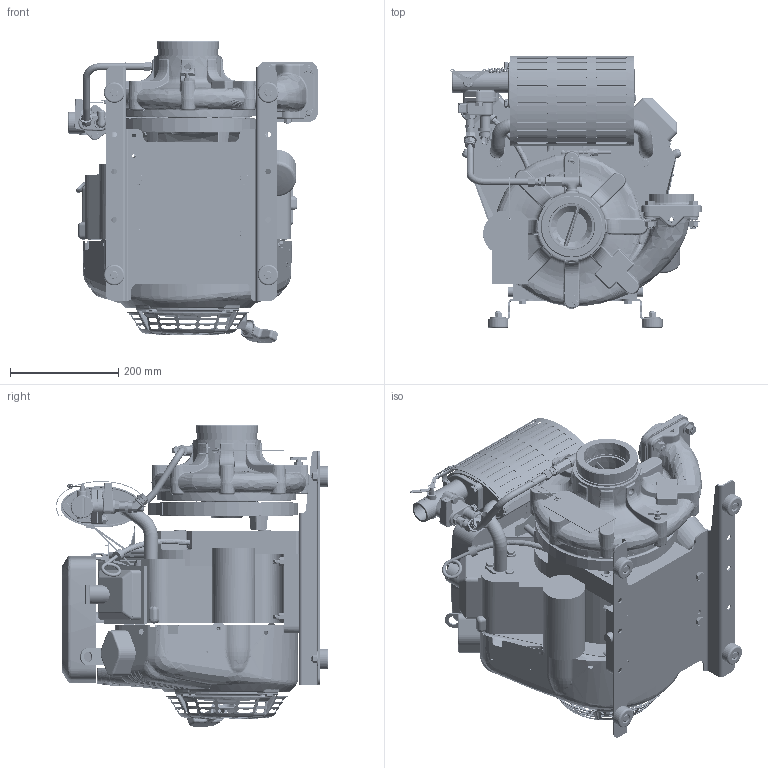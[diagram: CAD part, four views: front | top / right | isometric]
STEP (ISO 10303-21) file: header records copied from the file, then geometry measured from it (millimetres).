
FILE_DESCRIPTION (( 'STEP AP214' ), '1' );
FILE_NAME ('HPX200-B18 PUMP ASSEMBLY.STEP', '2017-10-27T13:16:53', ( '' ), ( '' ), 'SwSTEP 2.0', 'SolidWorks 2016', '' );
FILE_SCHEMA (( 'AUTOMOTIVE_DESIGN' ));
Length unit declared in the file: millimetre
Products named in the file (1): HPX200-B18 PUMP ASSEMBLY
Bounding box: 463.66 x 502.82 x 557.64 mm (x, y, z)
Surface area: 2282649.1 mm2 (no closed solid volume)
Topology: 0 solids, 433 shells, 5119 faces, 23403 edges, 18105 vertices
Faces by surface type: cylinder 1369, plane 1335, bspline 1301, torus 577, cone 499, sphere 38
Entity records: 482151 total; most frequent: CARTESIAN_POINT 263022, ORIENTED_EDGE 33653, DIRECTION 26078, EDGE_CURVE 23378, VERTEX_POINT 18097, LINE 8788, VECTOR 8788, AXIS2_PLACEMENT_3D 8645
